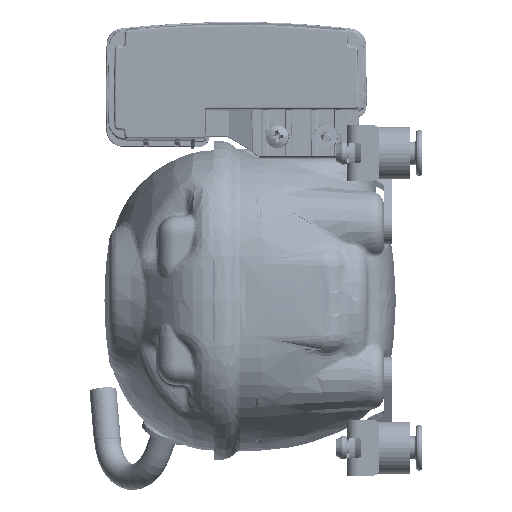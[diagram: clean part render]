
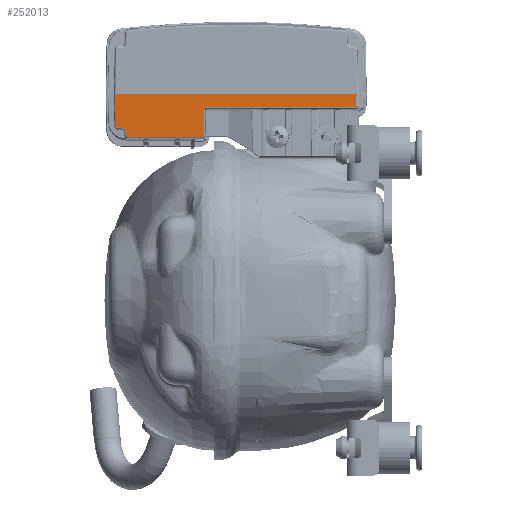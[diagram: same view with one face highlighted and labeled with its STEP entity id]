
A CAD part, left-side view. The second image highlights one B-rep face of the part: STEP entity #252013.
In plain terms, the highlighted planar face has unit normal (-1, 0, -0.018) as drawn and (0.017, 0, -1) by its records, which use the part's own axes.
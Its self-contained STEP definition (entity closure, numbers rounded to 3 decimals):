
#171312=DIRECTION('',(0.,-1.,0.));
#171313=VECTOR('',#171312,23.136);
#171314=CARTESIAN_POINT('',(26.998,70.271,
-70.523));
#171315=LINE('',#171314,#171313);
#171316=CARTESIAN_POINT('',(26.506,70.771,
-70.532));
#171317=CARTESIAN_POINT('',(26.539,70.77,
-70.531));
#171318=CARTESIAN_POINT('',(26.603,70.762,
-70.53));
#171319=CARTESIAN_POINT('',(26.695,70.734,
-70.528));
#171320=CARTESIAN_POINT('',(26.779,70.687,
-70.527));
#171321=CARTESIAN_POINT('',(26.854,70.626,
-70.526));
#171322=CARTESIAN_POINT('',(26.915,70.552,
-70.525));
#171323=CARTESIAN_POINT('',(26.961,70.466,
-70.524));
#171324=CARTESIAN_POINT('',(26.991,70.371,
-70.523));
#171325=CARTESIAN_POINT('',(26.998,70.305,
-70.523));
#171326=CARTESIAN_POINT('',(26.998,70.271,
-70.523));
#171328=DIRECTION('',(1.,-0.017,0.017));
#171329=VECTOR('',#171328,0.835);
#171330=CARTESIAN_POINT('',(25.671,70.785,
-70.546));
#171331=LINE('',#171330,#171329);
#171332=CARTESIAN_POINT('',(24.197,72.285,
-70.572));
#171333=CARTESIAN_POINT('',(24.197,72.186,
-70.572));
#171334=CARTESIAN_POINT('',(24.216,71.994,
-70.572));
#171335=CARTESIAN_POINT('',(24.299,71.717,
-70.57));
#171336=CARTESIAN_POINT('',(24.433,71.46,
-70.568));
#171337=CARTESIAN_POINT('',(24.613,71.235,
-70.565));
#171338=CARTESIAN_POINT('',(24.832,71.048,
-70.561));
#171339=CARTESIAN_POINT('',(25.086,70.904,
-70.556));
#171340=CARTESIAN_POINT('',(25.373,70.81,
-70.551));
#171341=CARTESIAN_POINT('',(25.57,70.787,
-70.548));
#171342=CARTESIAN_POINT('',(25.671,70.785,
-70.546));
#171344=DIRECTION('',(0.,-1.,0.));
#171345=VECTOR('',#171344,1.035);
#171346=CARTESIAN_POINT('',(24.197,73.319,
-70.572));
#171347=LINE('',#171346,#171345);
#171348=CARTESIAN_POINT('',(23.706,73.819,
-70.581));
#171349=CARTESIAN_POINT('',(23.739,73.818,
-70.58));
#171350=CARTESIAN_POINT('',(23.803,73.811,
-70.579));
#171351=CARTESIAN_POINT('',(23.895,73.782,
-70.577));
#171352=CARTESIAN_POINT('',(23.979,73.736,
-70.576));
#171353=CARTESIAN_POINT('',(24.054,73.674,
-70.575));
#171354=CARTESIAN_POINT('',(24.114,73.6,
-70.573));
#171355=CARTESIAN_POINT('',(24.161,73.515,
-70.573));
#171356=CARTESIAN_POINT('',(24.19,73.419,
-70.572));
#171357=CARTESIAN_POINT('',(24.197,73.353,
-70.572));
#171358=CARTESIAN_POINT('',(24.197,73.319,
-70.572));
#171360=DIRECTION('',(1.,-0.017,0.017));
#171361=VECTOR('',#171360,9.709);
#171362=CARTESIAN_POINT('',(14.,73.987,-70.75));
#171363=LINE('',#171362,#171361);
#171364=DIRECTION('',(0.,1.,0.));
#171365=VECTOR('',#171364,73.474);
#171366=CARTESIAN_POINT('',(14.,0.513,-70.75));
#171367=LINE('',#171366,#171365);
#171368=DIRECTION('',(-1.,-0.017,
-0.017));
#171369=VECTOR('',#171368,3.506);
#171370=CARTESIAN_POINT('',(17.505,0.574,
-70.689));
#171371=LINE('',#171370,#171369);
#171372=CARTESIAN_POINT('',(17.996,1.074,
-70.68));
#171373=CARTESIAN_POINT('',(17.996,1.041,
-70.68));
#171374=CARTESIAN_POINT('',(17.99,0.976,
-70.68));
#171375=CARTESIAN_POINT('',(17.962,0.885,
-70.681));
#171376=CARTESIAN_POINT('',(17.918,0.799,
-70.682));
#171377=CARTESIAN_POINT('',(17.858,0.724,
-70.683));
#171378=CARTESIAN_POINT('',(17.785,0.662,
-70.684));
#171379=CARTESIAN_POINT('',(17.7,0.613,
-70.685));
#171380=CARTESIAN_POINT('',(17.605,0.582,
-70.687));
#171381=CARTESIAN_POINT('',(17.539,0.574,
-70.688));
#171382=CARTESIAN_POINT('',(17.505,0.574,
-70.689));
#171384=DIRECTION('',(0.,-1.,0.));
#171385=VECTOR('',#171384,45.46);
#171386=CARTESIAN_POINT('',(17.996,46.533,
-70.68));
#171387=LINE('',#171386,#171385);
#171388=CARTESIAN_POINT('',(18.674,46.991,
-70.668));
#171389=CARTESIAN_POINT('',(18.648,46.991,
-70.669));
#171390=CARTESIAN_POINT('',(18.594,46.986,
-70.67));
#171391=CARTESIAN_POINT('',(18.501,46.964,
-70.671));
#171392=CARTESIAN_POINT('',(18.408,46.924,
-70.673));
#171393=CARTESIAN_POINT('',(18.321,46.871,
-70.675));
#171394=CARTESIAN_POINT('',(18.246,46.812,
-70.676));
#171395=CARTESIAN_POINT('',(18.185,46.755,
-70.677));
#171396=CARTESIAN_POINT('',(18.136,46.703,
-70.678));
#171397=CARTESIAN_POINT('',(18.094,46.655,
-70.679));
#171398=CARTESIAN_POINT('',(18.058,46.611,
-70.679));
#171399=CARTESIAN_POINT('',(18.026,46.571,
-70.68));
#171400=CARTESIAN_POINT('',(18.006,46.546,
-70.68));
#171401=CARTESIAN_POINT('',(17.996,46.533,
-70.68));
#171403=DIRECTION('',(-1.,-0.017,
-0.017));
#171404=VECTOR('',#171403,8.326);
#171405=CARTESIAN_POINT('',(26.998,47.135,
-70.523));
#171406=LINE('',#171405,#171404);
#200909=CARTESIAN_POINT('',(17.505,0.574,
-70.689));
#200910=CARTESIAN_POINT('',(14.,0.513,-70.75));
#200911=VERTEX_POINT('',#200909);
#200912=VERTEX_POINT('',#200910);
#200918=CARTESIAN_POINT('',(14.,73.987,-70.75));
#200920=VERTEX_POINT('',#200918);
#200949=CARTESIAN_POINT('',(25.671,70.785,
-70.546));
#200950=CARTESIAN_POINT('',(26.506,70.771,
-70.532));
#200951=VERTEX_POINT('',#200949);
#200952=VERTEX_POINT('',#200950);
#200957=CARTESIAN_POINT('',(24.197,73.319,
-70.572));
#200958=CARTESIAN_POINT('',(24.197,72.285,
-70.572));
#200959=VERTEX_POINT('',#200957);
#200960=VERTEX_POINT('',#200958);
#200965=CARTESIAN_POINT('',(23.706,73.819,
-70.581));
#200966=VERTEX_POINT('',#200965);
#200969=CARTESIAN_POINT('',(26.998,70.271,
-70.523));
#200971=VERTEX_POINT('',#200969);
#200977=CARTESIAN_POINT('',(26.998,47.135,
-70.523));
#200978=VERTEX_POINT('',#200977);
#200979=CARTESIAN_POINT('',(17.996,46.533,
-70.68));
#200980=CARTESIAN_POINT('',(17.996,1.074,
-70.68));
#200981=VERTEX_POINT('',#200979);
#200982=VERTEX_POINT('',#200980);
#201905=VERTEX_POINT('',#171388);
#251981=CARTESIAN_POINT('',(14.,0.017,-70.75));
#251982=DIRECTION('',(-0.017,0.,1.));
#251983=DIRECTION('',(0.,-1.,0.));
#251984=AXIS2_PLACEMENT_3D('',#251981,#251982,#251983);
#251985=PLANE('',#251984);
#251987=ORIENTED_EDGE('',*,*,#251986,.F.);
#251989=ORIENTED_EDGE('',*,*,#251988,.F.);
#251991=ORIENTED_EDGE('',*,*,#251990,.F.);
#251993=ORIENTED_EDGE('',*,*,#251992,.F.);
#251995=ORIENTED_EDGE('',*,*,#251994,.F.);
#251997=ORIENTED_EDGE('',*,*,#251996,.F.);
#251999=ORIENTED_EDGE('',*,*,#251998,.F.);
#252001=ORIENTED_EDGE('',*,*,#252000,.F.);
#252003=ORIENTED_EDGE('',*,*,#252002,.F.);
#252005=ORIENTED_EDGE('',*,*,#252004,.F.);
#252007=ORIENTED_EDGE('',*,*,#252006,.F.);
#252009=ORIENTED_EDGE('',*,*,#252008,.F.);
#252010=ORIENTED_EDGE('',*,*,#251971,.F.);
#252011=EDGE_LOOP('',(#251987,#251989,#251991,#251993,#251995,#251997,#251999,
#252001,#252003,#252005,#252007,#252009,#252010));
#252012=FACE_OUTER_BOUND('',#252011,.F.);
#252013=ADVANCED_FACE('',(#252012),#251985,.F.);
#171327=B_SPLINE_CURVE_WITH_KNOTS('',3,(#171316,#171317,#171318,#171319,#171320,
#171321,#171322,#171323,#171324,#171325,#171326),.UNSPECIFIED.,.F.,.F.,(4,1,1,1,
1,1,1,1,4),(0.,0.125,0.25,0.375,0.5,0.625,0.75,0.875,1.),
.UNSPECIFIED.);
#171343=B_SPLINE_CURVE_WITH_KNOTS('',3,(#171332,#171333,#171334,#171335,#171336,
#171337,#171338,#171339,#171340,#171341,#171342),.UNSPECIFIED.,.F.,.F.,(4,1,1,1,
1,1,1,1,4),(0.,0.125,0.25,0.375,0.5,0.625,0.75,0.875,1.),
.UNSPECIFIED.);
#171359=B_SPLINE_CURVE_WITH_KNOTS('',3,(#171348,#171349,#171350,#171351,#171352,
#171353,#171354,#171355,#171356,#171357,#171358),.UNSPECIFIED.,.F.,.F.,(4,1,1,1,
1,1,1,1,4),(0.,0.125,0.25,0.375,0.5,0.625,0.75,0.875,1.),
.UNSPECIFIED.);
#171383=B_SPLINE_CURVE_WITH_KNOTS('',3,(#171372,#171373,#171374,#171375,#171376,
#171377,#171378,#171379,#171380,#171381,#171382),.UNSPECIFIED.,.F.,.F.,(4,1,1,1,
1,1,1,1,4),(0.,0.125,0.25,0.375,0.5,0.625,0.75,0.875,1.),
.UNSPECIFIED.);
#171402=B_SPLINE_CURVE_WITH_KNOTS('',3,(#171388,#171389,#171390,#171391,#171392,
#171393,#171394,#171395,#171396,#171397,#171398,#171399,#171400,#171401),
.UNSPECIFIED.,.F.,.F.,(4,1,1,1,1,1,1,1,1,1,1,4),(0.,0.091,
0.182,0.273,0.364,0.455,
0.545,0.636,0.727,0.818,
0.909,1.),.UNSPECIFIED.);
#251971=EDGE_CURVE('',#200978,#201905,#171406,.T.);
#251986=EDGE_CURVE('',#200971,#200978,#171315,.T.);
#251988=EDGE_CURVE('',#200952,#200971,#171327,.T.);
#251990=EDGE_CURVE('',#200951,#200952,#171331,.T.);
#251992=EDGE_CURVE('',#200960,#200951,#171343,.T.);
#251994=EDGE_CURVE('',#200959,#200960,#171347,.T.);
#251996=EDGE_CURVE('',#200966,#200959,#171359,.T.);
#251998=EDGE_CURVE('',#200920,#200966,#171363,.T.);
#252000=EDGE_CURVE('',#200912,#200920,#171367,.T.);
#252002=EDGE_CURVE('',#200911,#200912,#171371,.T.);
#252004=EDGE_CURVE('',#200982,#200911,#171383,.T.);
#252006=EDGE_CURVE('',#200981,#200982,#171387,.T.);
#252008=EDGE_CURVE('',#201905,#200981,#171402,.T.);
